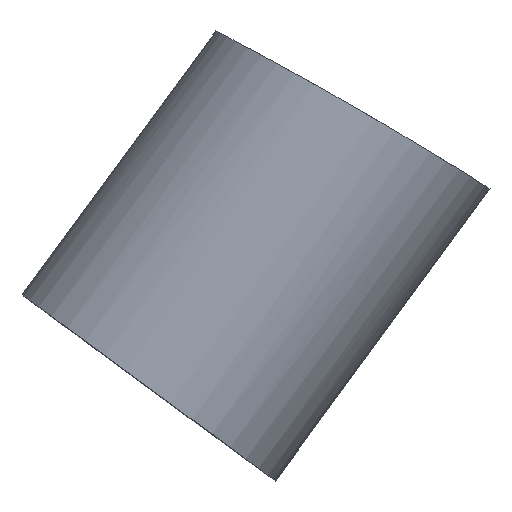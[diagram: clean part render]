
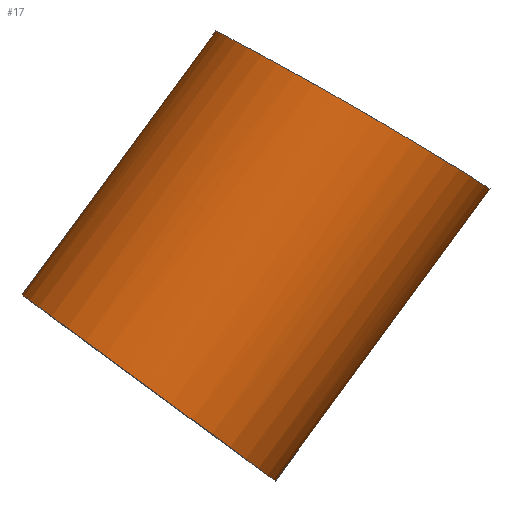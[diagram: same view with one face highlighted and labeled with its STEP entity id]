
A CAD part, top view. The second image highlights one B-rep face of the part: STEP entity #17.
In plain terms, the highlighted cylindrical face has radius 0.5 mm (diameter 1 mm), a full revolution.
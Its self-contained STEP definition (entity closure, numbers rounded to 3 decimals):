
#17 = ADVANCED_FACE('',(#18),#90,.T.);
#18 = FACE_BOUND('',#19,.T.);
#19 = EDGE_LOOP('',(#20,#39,#47,#54,#55));
#20 = ORIENTED_EDGE('',*,*,#21,.T.);
#21 = EDGE_CURVE('',#22,#24,#26,.T.);
#22 = VERTEX_POINT('',#23);
#23 = CARTESIAN_POINT('',(6.763,11.74,-2.2)
  );
#24 = VERTEX_POINT('',#25);
#25 = CARTESIAN_POINT('',(7.194,11.482,-1.7));
#26 = B_SPLINE_CURVE_WITH_KNOTS('',6,(#27,#28,#29,#30,#31,#32,#33,#34,
    #35,#36,#37,#38),.UNSPECIFIED.,.F.,.F.,(7,5,7),(0.,0.469,1.
    ),.UNSPECIFIED.);
#27 = CARTESIAN_POINT('',(6.763,11.74,-2.2)
  );
#28 = CARTESIAN_POINT('',(6.819,11.708,-2.2
    ));
#29 = CARTESIAN_POINT('',(6.875,11.675,-2.19
    ));
#30 = CARTESIAN_POINT('',(6.929,11.644,-2.17
    ));
#31 = CARTESIAN_POINT('',(6.978,11.614,-2.141)
  );
#32 = CARTESIAN_POINT('',(7.022,11.587,-2.105
    ));
#33 = CARTESIAN_POINT('',(7.104,11.538,-2.015)
  );
#34 = CARTESIAN_POINT('',(7.14,11.516,-1.959
    ));
#35 = CARTESIAN_POINT('',(7.167,11.499,-1.898
    ));
#36 = CARTESIAN_POINT('',(7.185,11.488,-1.833
    ));
#37 = CARTESIAN_POINT('',(7.194,11.482,-1.767
    ));
#38 = CARTESIAN_POINT('',(7.194,11.482,-1.7));
#39 = ORIENTED_EDGE('',*,*,#40,.F.);
#40 = EDGE_CURVE('',#41,#24,#43,.T.);
#41 = VERTEX_POINT('',#42);
#42 = CARTESIAN_POINT('',(6.511,10.553,-1.7));
#43 = LINE('',#44,#45);
#44 = CARTESIAN_POINT('',(6.511,10.553,-1.7));
#45 = VECTOR('',#46,1.);
#46 = DIRECTION('',(0.592,0.806,0.));
#47 = ORIENTED_EDGE('',*,*,#48,.T.);
#48 = EDGE_CURVE('',#41,#41,#49,.T.);
#49 = CIRCLE('',#50,0.5);
#50 = AXIS2_PLACEMENT_3D('',#51,#52,#53);
#51 = CARTESIAN_POINT('',(6.108,10.849,-1.7));
#52 = DIRECTION('',(0.592,0.806,0.));
#53 = DIRECTION('',(0.806,-0.592,0.));
#54 = ORIENTED_EDGE('',*,*,#40,.T.);
#55 = ORIENTED_EDGE('',*,*,#56,.T.);
#56 = EDGE_CURVE('',#24,#22,#57,.T.);
#57 = B_SPLINE_CURVE_WITH_KNOTS('',6,(#58,#59,#60,#61,#62,#63,#64,#65,
    #66,#67,#68,#69,#70,#71,#72,#73,#74,#75,#76,#77,#78,#79,#80,#81,#82,
    #83,#84,#85,#86,#87,#88,#89),.UNSPECIFIED.,.F.,.F.,(7,5,5,5,5,5,7),(
    0.,0.18,0.329,0.484,0.669,
    0.847,1.),.UNSPECIFIED.);
#58 = CARTESIAN_POINT('',(7.194,11.482,-1.7));
#59 = CARTESIAN_POINT('',(7.194,11.482,-1.632
    ));
#60 = CARTESIAN_POINT('',(7.185,11.488,-1.565)
  );
#61 = CARTESIAN_POINT('',(7.166,11.5,-1.499
    ));
#62 = CARTESIAN_POINT('',(7.138,11.517,-1.437)
  );
#63 = CARTESIAN_POINT('',(7.101,11.54,-1.381
    ));
#64 = CARTESIAN_POINT('',(7.019,11.59,-1.293
    ));
#65 = CARTESIAN_POINT('',(6.977,11.616,-1.258
    ));
#66 = CARTESIAN_POINT('',(6.93,11.644,-1.231)
  );
#67 = CARTESIAN_POINT('',(6.879,11.674,-1.211
    ));
#68 = CARTESIAN_POINT('',(6.825,11.706,-1.201)
  );
#69 = CARTESIAN_POINT('',(6.717,11.768,-1.199
    ));
#70 = CARTESIAN_POINT('',(6.661,11.8,-1.207
    ));
#71 = CARTESIAN_POINT('',(6.606,11.831,-1.226
    ));
#72 = CARTESIAN_POINT('',(6.556,11.859,-1.253)
  );
#73 = CARTESIAN_POINT('',(6.51,11.884,-1.287
    ));
#74 = CARTESIAN_POINT('',(6.421,11.932,-1.377
    ));
#75 = CARTESIAN_POINT('',(6.381,11.953,-1.435)
  );
#76 = CARTESIAN_POINT('',(6.351,11.969,-1.499
    ));
#77 = CARTESIAN_POINT('',(6.331,11.98,-1.567)
  );
#78 = CARTESIAN_POINT('',(6.321,11.985,-1.637)
  );
#79 = CARTESIAN_POINT('',(6.323,11.984,-1.773
    ));
#80 = CARTESIAN_POINT('',(6.333,11.979,-1.84
    ));
#81 = CARTESIAN_POINT('',(6.353,11.968,-1.905
    ));
#82 = CARTESIAN_POINT('',(6.382,11.952,-1.966
    ));
#83 = CARTESIAN_POINT('',(6.42,11.932,-2.021
    ));
#84 = CARTESIAN_POINT('',(6.505,11.886,-2.109
    ));
#85 = CARTESIAN_POINT('',(6.55,11.861,-2.144
    ));
#86 = CARTESIAN_POINT('',(6.6,11.833,-2.171)
  );
#87 = CARTESIAN_POINT('',(6.653,11.803,-2.191
    ));
#88 = CARTESIAN_POINT('',(6.708,11.772,-2.2
    ));
#89 = CARTESIAN_POINT('',(6.763,11.74,-2.2)
  );
#90 = CYLINDRICAL_SURFACE('',#91,0.5);
#91 = AXIS2_PLACEMENT_3D('',#92,#93,#94);
#92 = CARTESIAN_POINT('',(6.108,10.849,-1.7));
#93 = DIRECTION('',(0.592,0.806,0.));
#94 = DIRECTION('',(0.806,-0.592,0.));
